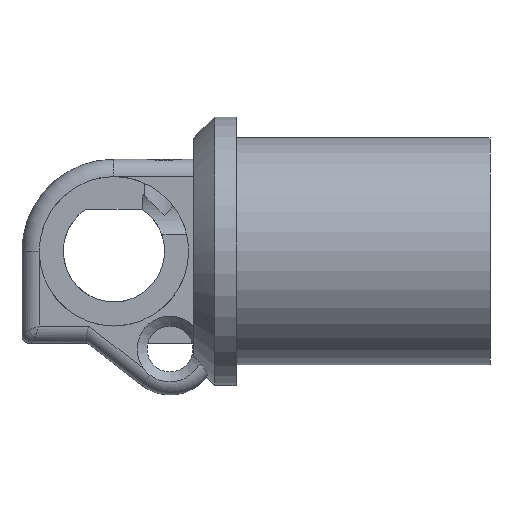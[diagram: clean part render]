
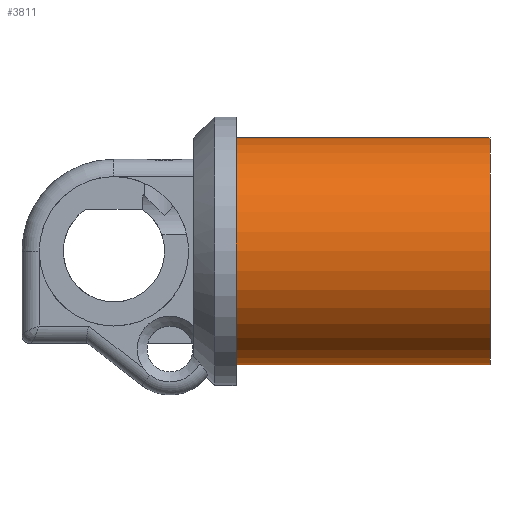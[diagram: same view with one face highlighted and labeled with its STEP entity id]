
A CAD part, front view. The second image highlights one B-rep face of the part: STEP entity #3811.
In plain terms, the highlighted cylindrical face has radius 7.9 mm (diameter 15.8 mm), a full revolution.
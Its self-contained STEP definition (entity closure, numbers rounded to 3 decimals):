
#212 = PLANE('',#213);
#213 = AXIS2_PLACEMENT_3D('',#214,#215,#216);
#214 = CARTESIAN_POINT('',(8.5,7.9,-6.4));
#215 = DIRECTION('',(1.,-0.,-0.));
#216 = DIRECTION('',(0.,0.,-1.));
#1799 = EDGE_CURVE('',#1800,#1800,#1802,.T.);
#1800 = VERTEX_POINT('',#1801);
#1801 = CARTESIAN_POINT('',(8.5,0.,-7.9));
#1802 = SURFACE_CURVE('',#1803,(#1808,#1819),.PCURVE_S1.);
#1803 = CIRCLE('',#1804,7.9);
#1804 = AXIS2_PLACEMENT_3D('',#1805,#1806,#1807);
#1805 = CARTESIAN_POINT('',(8.5,0.,0.));
#1806 = DIRECTION('',(-1.,0.,0.));
#1807 = DIRECTION('',(0.,-0.,-1.));
#1808 = PCURVE('',#212,#1809);
#1809 = DEFINITIONAL_REPRESENTATION('',(#1810),#1818);
#1810 = ( BOUNDED_CURVE() B_SPLINE_CURVE(2,(#1811,#1812,#1813,#1814,
#1815,#1816,#1817),.UNSPECIFIED.,.T.,.F.) B_SPLINE_CURVE_WITH_KNOTS((1,2
    ,2,2,2,1),(-2.094,0.,2.094,4.189,
6.283,8.378),.UNSPECIFIED.) CURVE() 
GEOMETRIC_REPRESENTATION_ITEM() RATIONAL_B_SPLINE_CURVE((1.,0.5,1.,0.5,
1.,0.5,1.)) REPRESENTATION_ITEM('') );
#1811 = CARTESIAN_POINT('',(1.5,-7.9));
#1812 = CARTESIAN_POINT('',(1.5,-21.583));
#1813 = CARTESIAN_POINT('',(-10.35,-14.742));
#1814 = CARTESIAN_POINT('',(-22.2,-7.9));
#1815 = CARTESIAN_POINT('',(-10.35,-1.058));
#1816 = CARTESIAN_POINT('',(1.5,5.783));
#1817 = CARTESIAN_POINT('',(1.5,-7.9));
#1818 = ( GEOMETRIC_REPRESENTATION_CONTEXT(2) 
PARAMETRIC_REPRESENTATION_CONTEXT() REPRESENTATION_CONTEXT('2D SPACE',''
  ) );
#1819 = PCURVE('',#1820,#1825);
#1820 = CYLINDRICAL_SURFACE('',#1821,7.9);
#1821 = AXIS2_PLACEMENT_3D('',#1822,#1823,#1824);
#1822 = CARTESIAN_POINT('',(8.49,0.,0.));
#1823 = DIRECTION('',(1.,0.,0.));
#1824 = DIRECTION('',(0.,0.,-1.));
#1825 = DEFINITIONAL_REPRESENTATION('',(#1826),#1830);
#1826 = LINE('',#1827,#1828);
#1827 = CARTESIAN_POINT('',(-0.,0.01));
#1828 = VECTOR('',#1829,1.);
#1829 = DIRECTION('',(-1.,0.));
#1830 = ( GEOMETRIC_REPRESENTATION_CONTEXT(2) 
PARAMETRIC_REPRESENTATION_CONTEXT() REPRESENTATION_CONTEXT('2D SPACE',''
  ) );
#3811 = ADVANCED_FACE('',(#3812),#1820,.T.);
#3812 = FACE_BOUND('',#3813,.F.);
#3813 = EDGE_LOOP('',(#3814,#3837,#3868,#3869));
#3814 = ORIENTED_EDGE('',*,*,#3815,.T.);
#3815 = EDGE_CURVE('',#1800,#3816,#3818,.T.);
#3816 = VERTEX_POINT('',#3817);
#3817 = CARTESIAN_POINT('',(26.17,0.,-7.9));
#3818 = SEAM_CURVE('',#3819,(#3823,#3830),.PCURVE_S1.);
#3819 = LINE('',#3820,#3821);
#3820 = CARTESIAN_POINT('',(8.49,0.,-7.9));
#3821 = VECTOR('',#3822,1.);
#3822 = DIRECTION('',(1.,0.,0.));
#3823 = PCURVE('',#1820,#3824);
#3824 = DEFINITIONAL_REPRESENTATION('',(#3825),#3829);
#3825 = LINE('',#3826,#3827);
#3826 = CARTESIAN_POINT('',(-6.283,-0.));
#3827 = VECTOR('',#3828,1.);
#3828 = DIRECTION('',(-0.,1.));
#3829 = ( GEOMETRIC_REPRESENTATION_CONTEXT(2) 
PARAMETRIC_REPRESENTATION_CONTEXT() REPRESENTATION_CONTEXT('2D SPACE',''
  ) );
#3830 = PCURVE('',#1820,#3831);
#3831 = DEFINITIONAL_REPRESENTATION('',(#3832),#3836);
#3832 = LINE('',#3833,#3834);
#3833 = CARTESIAN_POINT('',(-0.,-0.));
#3834 = VECTOR('',#3835,1.);
#3835 = DIRECTION('',(-0.,1.));
#3836 = ( GEOMETRIC_REPRESENTATION_CONTEXT(2) 
PARAMETRIC_REPRESENTATION_CONTEXT() REPRESENTATION_CONTEXT('2D SPACE',''
  ) );
#3837 = ORIENTED_EDGE('',*,*,#3838,.F.);
#3838 = EDGE_CURVE('',#3816,#3816,#3839,.T.);
#3839 = SURFACE_CURVE('',#3840,(#3845,#3852),.PCURVE_S1.);
#3840 = CIRCLE('',#3841,7.9);
#3841 = AXIS2_PLACEMENT_3D('',#3842,#3843,#3844);
#3842 = CARTESIAN_POINT('',(26.17,0.,0.));
#3843 = DIRECTION('',(-1.,0.,0.));
#3844 = DIRECTION('',(0.,0.,-1.));
#3845 = PCURVE('',#1820,#3846);
#3846 = DEFINITIONAL_REPRESENTATION('',(#3847),#3851);
#3847 = LINE('',#3848,#3849);
#3848 = CARTESIAN_POINT('',(-0.,17.68));
#3849 = VECTOR('',#3850,1.);
#3850 = DIRECTION('',(-1.,0.));
#3851 = ( GEOMETRIC_REPRESENTATION_CONTEXT(2) 
PARAMETRIC_REPRESENTATION_CONTEXT() REPRESENTATION_CONTEXT('2D SPACE',''
  ) );
#3852 = PCURVE('',#3853,#3858);
#3853 = PLANE('',#3854);
#3854 = AXIS2_PLACEMENT_3D('',#3855,#3856,#3857);
#3855 = CARTESIAN_POINT('',(26.17,0.,0.));
#3856 = DIRECTION('',(1.,0.,0.));
#3857 = DIRECTION('',(0.,0.,1.));
#3858 = DEFINITIONAL_REPRESENTATION('',(#3859),#3867);
#3859 = ( BOUNDED_CURVE() B_SPLINE_CURVE(2,(#3860,#3861,#3862,#3863,
#3864,#3865,#3866),.UNSPECIFIED.,.T.,.F.) B_SPLINE_CURVE_WITH_KNOTS((1,2
    ,2,2,2,1),(-2.094,0.,2.094,4.189,
6.283,8.378),.UNSPECIFIED.) CURVE() 
GEOMETRIC_REPRESENTATION_ITEM() RATIONAL_B_SPLINE_CURVE((1.,0.5,1.,0.5,
1.,0.5,1.)) REPRESENTATION_ITEM('') );
#3860 = CARTESIAN_POINT('',(-7.9,0.));
#3861 = CARTESIAN_POINT('',(-7.9,13.683));
#3862 = CARTESIAN_POINT('',(3.95,6.842));
#3863 = CARTESIAN_POINT('',(15.8,0.));
#3864 = CARTESIAN_POINT('',(3.95,-6.842));
#3865 = CARTESIAN_POINT('',(-7.9,-13.683));
#3866 = CARTESIAN_POINT('',(-7.9,0.));
#3867 = ( GEOMETRIC_REPRESENTATION_CONTEXT(2) 
PARAMETRIC_REPRESENTATION_CONTEXT() REPRESENTATION_CONTEXT('2D SPACE',''
  ) );
#3868 = ORIENTED_EDGE('',*,*,#3815,.F.);
#3869 = ORIENTED_EDGE('',*,*,#1799,.T.);
